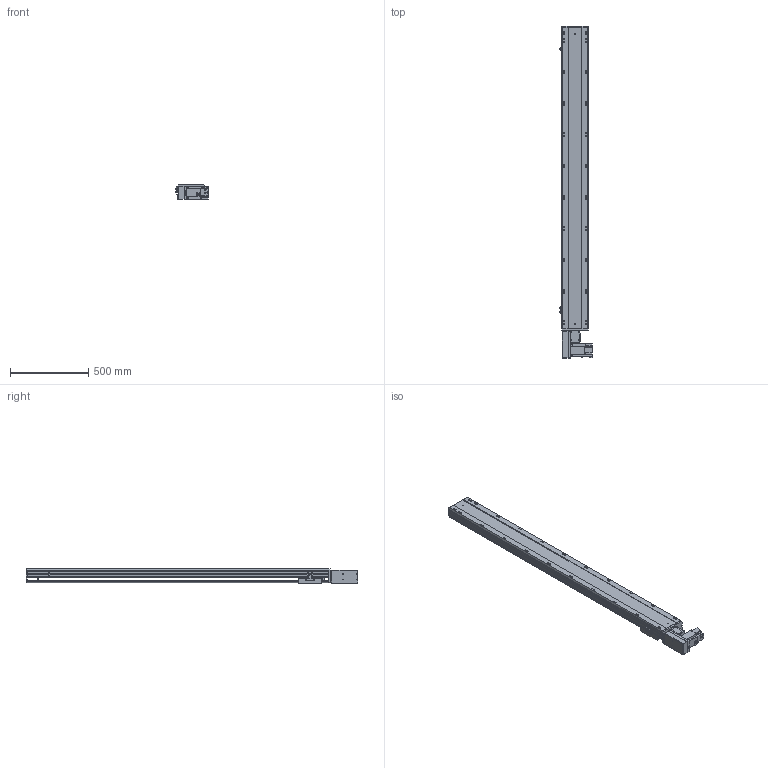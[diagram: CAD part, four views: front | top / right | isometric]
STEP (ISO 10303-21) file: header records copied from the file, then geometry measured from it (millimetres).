
FILE_DESCRIPTION (( 'STEP AP203' ), '1' );
FILE_NAME ('BTB17-L50-1650-R-T75-C4.STEP', '2022-07-26T03:12:21', ( 'CXY' ), ( 'BT' ), 'SwSTEP 2.0', 'SolidWorks 2016', '' );
FILE_SCHEMA (( 'CONFIG_CONTROL_DESIGN' ));
Length unit declared in the file: millimetre
Products named in the file (10): BTB17-L-HZ; BTB17-L-06; BTB17-L50-1650-R-T75-C4; BTB17-L-04; BTB17-L-02; BTB17-L-24; BTB17-L-01; BTB17-L-菁釱_XD; BTB17-L-23; T75
Assembly tree (12 placements, depth 2):
  BTB17-L50-1650-R-T75-C4
    BTB17-L-菁釱_XD
    BTB17-L-01
    BTB17-L-04  x3
    BTB17-L-06
    BTB17-L-23  x2
    BTB17-L-24
    BTB17-L-HZ
    BTB17-L-02
    T75
Bounding box: 209 x 2119.5 x 97 mm (x, y, z)
Volume: 17570544.8 mm3; surface area: 2296792 mm2
Topology: 22 solids, 22 shells, 1660 faces, 4353 edges, 2746 vertices
Faces by surface type: plane 876, cylinder 588, cone 160, bspline 20, torus 16
Entity records: 42689 total; most frequent: CARTESIAN_POINT 7952, DIRECTION 7171, ORIENTED_EDGE 6834, EDGE_CURVE 3417, AXIS2_PLACEMENT_3D 2489, VERTEX_POINT 2214, VECTOR 2193, LINE 2193
